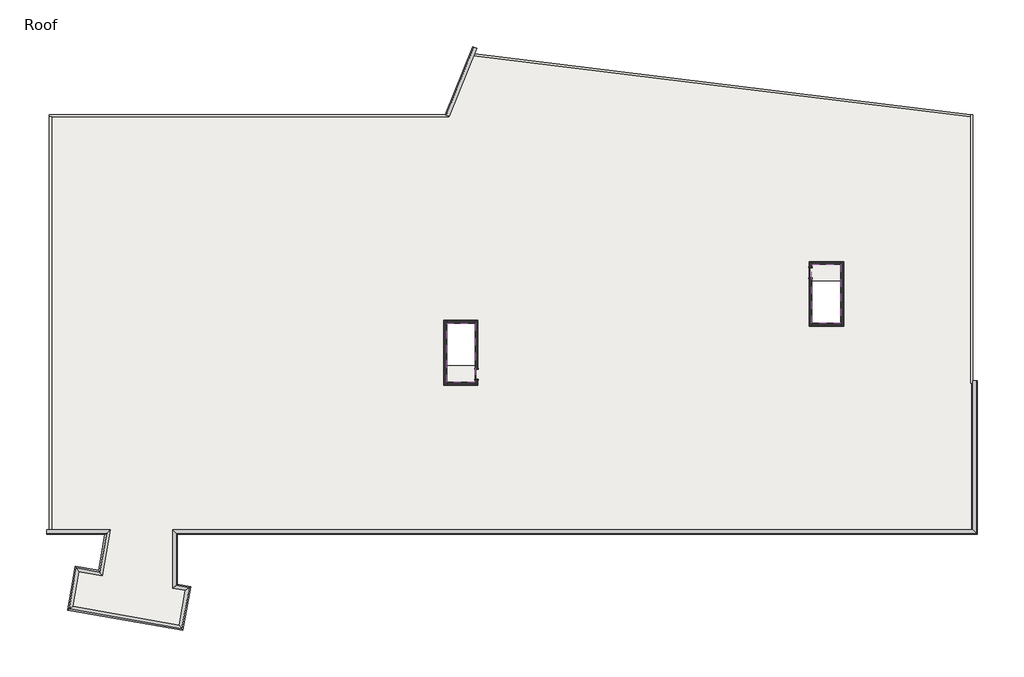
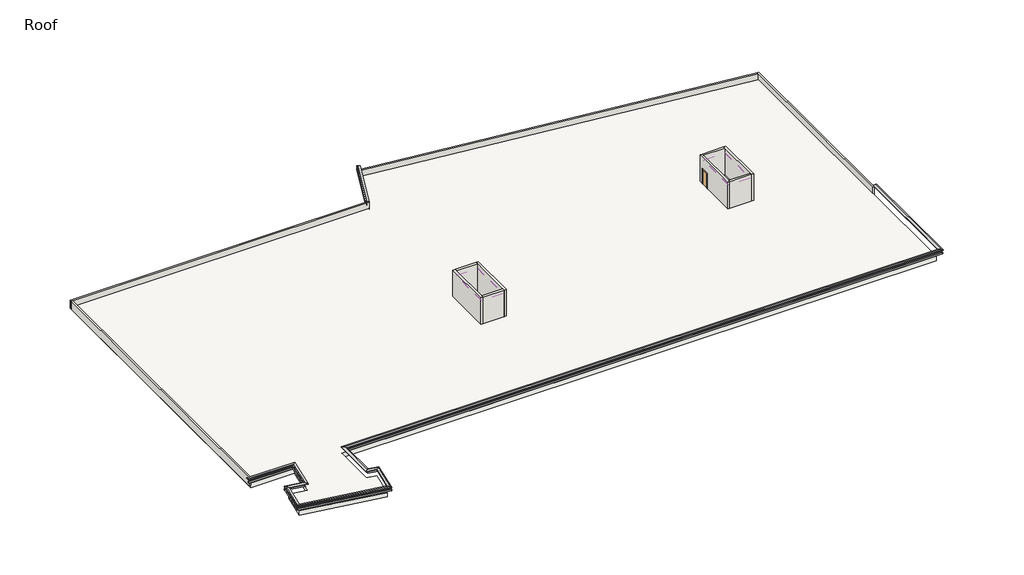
# One storey: 22 proxies, 12 walls, 3 roofs, 2 doors.
"""IFC4 building model written with IfcOpenShell, lengths in millimetres."""

from ifc_helpers import new_model, si_unit, frame, origin, place, context, project, spatial, polyline, outline, extrude, faceted_brep, transform, mapped, element, save
from components import door_ec010f1f

model = new_model("IFC4")

# Units and contexts
model_context = context("Model", 3, world=origin())
ifc_project = project(units=[si_unit("LENGTHUNIT", "METRE", prefix="MILLI")], contexts=[model_context])

# Site, building, storey
site = spatial("IfcSite", under=ifc_project)
building = spatial("IfcBuilding", under=site)
storey = spatial("IfcBuildingStorey", under=building, Name="Roof", Elevation=18288.0)

# Proxies
placement = place(None, origin())
element("IfcBuildingElementProxy", 1, Name="Wall Sweeps", at=placement, inside=storey, context=model_context, shape_type="Brep", body=[
    faceted_brep([(15183.0054088, -28082.2103492, 19100.8), (15183.0054088, -28082.2103492, 18897.6), (15090.9304088, -27990.1353492, 18897.6), (15090.9304088, -27990.1353492, 19100.8), (-57076.0875003, -28082.2103492, 19100.8), (-57168.1625003, -27990.1353492, 19100.8), (-57168.1625003, -27990.1353492, 18897.6), (-57076.0875003, -28082.2103492, 18897.6), (-57076.0875003, -27990.1353492, 18897.6), (-57076.0875003, -27990.1353492, 19100.8)], [[[0, 1, 2, 3]], [[4, 5, 6, 7]], [[1, 0, 4, 7]], [[2, 1, 7, 6, 8]], [[3, 2, 8, 6, 5, 9]], [[0, 3, 9, 5, 4]]]),
])
element("IfcBuildingElementProxy", 2, Name="Wall Sweeps", at=placement, inside=storey, context=model_context, shape_type="Brep", body=[
    faceted_brep([(14802.0054088, -27701.2103492, 19367.5), (15081.4054088, -27980.6103492, 19405.6), (15208.4054088, -28107.6103492, 19367.5), (15208.4054088, -28107.6103492, 19304.0), (14802.0054088, -27701.2103492, 19304.0), (-57457.0875003, -27701.2103492, 19367.5), (-57457.0875003, -27701.2103492, 19304.0), (-57050.6875003, -28107.6103492, 19304.0), (-57050.6875003, -28107.6103492, 19367.5), (-57177.6875003, -27980.6103492, 19405.6)], [[[0, 1, 2, 3, 4]], [[5, 6, 7, 8, 9]], [[1, 0, 5, 9]], [[2, 1, 9, 8]], [[3, 2, 8, 7]], [[4, 3, 7, 6]], [[0, 4, 6, 5]]]),
])
element("IfcBuildingElementProxy", 3, Name="Wall Sweeps", at=placement, inside=storey, context=model_context, shape_type="SweptSolid", body=[
    extrude(outline(polyline([(-63573.0663387, -28082.2103492), (-63463.3356266, -27990.1353492), (-64081.0179385, -31493.1858149), (-64155.7054564, -31386.5209851), (-63573.0663387, -28082.2103492)])), frame((0.0, 0.0, 18897.6), z_axis=(0.0, 0.0, 1.0), x_axis=(1.0, 0.0, 0.0)), (0.0, 0.0, 1.0), 203.2),
])
element("IfcBuildingElementProxy", 4, Name="Wall Sweeps", at=placement, inside=storey, context=model_context, shape_type="Brep", body=[
    faceted_brep([(-63119.0082199, -27701.2103492, 19367.5), (-63119.0082199, -27701.2103492, 19304.0), (-63603.3368799, -28107.6103492, 19304.0), (-63603.3368799, -28107.6103492, 19367.5), (-63451.9841737, -27980.6103492, 19405.6), (-63846.6536582, -31827.8926946, 19367.5), (-64073.2916436, -31504.2201076, 19405.6), (-64176.3089096, -31357.0962044, 19367.5), (-64176.3089096, -31357.0962044, 19304.0), (-63846.6536582, -31827.8926946, 19304.0)], [[[0, 1, 2, 3, 4]], [[5, 6, 7, 8, 9]], [[0, 4, 6, 5]], [[4, 3, 7, 6]], [[3, 2, 8, 7]], [[2, 1, 9, 8]], [[1, 0, 5, 9]]]),
])
element("IfcBuildingElementProxy", 5, Name="Wall Sweeps", at=placement, inside=storey, context=model_context, shape_type="Brep", body=[
    faceted_brep([(-64155.7054564, -31386.5209851, 19100.8), (-64081.0179385, -31493.1858149, 19100.8), (-64081.0179385, -31493.1858149, 18897.6), (-64155.7054564, -31386.5209851, 18897.6), (-66256.8912782, -31016.0252332, 19100.8), (-66256.8912782, -31016.0252332, 18897.6), (-66182.2037603, -31122.690063, 18897.6), (-66182.2037603, -31122.690063, 19100.8), (-64171.6941124, -31477.1971589, 18897.6), (-64171.6941124, -31477.1971589, 19100.8)], [[[0, 1, 2, 3]], [[4, 5, 6, 7]], [[0, 3, 5, 4]], [[3, 2, 8, 6, 5]], [[2, 1, 9, 7, 6, 8]], [[1, 0, 4, 7, 9]]]),
])
element("IfcBuildingElementProxy", 6, Name="Wall Sweeps", at=placement, inside=storey, context=model_context, shape_type="Brep", body=[
    faceted_brep([(-63846.6536582, -31827.8926946, 19367.5), (-63846.6536582, -31827.8926946, 19304.0), (-64176.3089096, -31357.0962044, 19304.0), (-64176.3089096, -31357.0962044, 19367.5), (-64073.2916436, -31504.2201076, 19405.6), (-65947.83948, -31457.3969428, 19367.5), (-66174.4774654, -31133.7243557, 19405.6), (-66277.4947315, -30986.6004526, 19367.5), (-66277.4947315, -30986.6004526, 19304.0), (-65947.83948, -31457.3969428, 19304.0)], [[[0, 1, 2, 3, 4]], [[5, 6, 7, 8, 9]], [[0, 4, 6, 5]], [[4, 3, 7, 6]], [[3, 2, 8, 7]], [[2, 1, 9, 8]], [[1, 0, 5, 9]]]),
])
element("IfcBuildingElementProxy", 7, Name="Wall Sweeps", at=placement, inside=storey, context=model_context, shape_type="Brep", body=[
    faceted_brep([(-66256.8912782, -31016.0252332, 19100.8), (-66182.2037603, -31122.690063, 19100.8), (-66182.2037603, -31122.690063, 18897.6), (-66256.8912782, -31016.0252332, 18897.6), (-66944.9548174, -34918.2274737, 19100.8), (-66944.9548174, -34918.2274737, 18897.6), (-66838.2899876, -34843.5399558, 18897.6), (-66838.2899876, -34843.5399558, 19100.8), (-66318.0892373, -31363.0961055, 18897.6), (-66318.0892373, -31363.0961055, 19100.8), (-66227.4130634, -31379.0847615, 18897.6), (-66227.4130634, -31379.0847615, 19100.8)], [[[0, 1, 2, 3]], [[4, 5, 6, 7]], [[0, 3, 8, 5, 4, 9]], [[3, 2, 10, 6, 5, 8]], [[2, 1, 11, 7, 6, 10]], [[1, 0, 9, 4, 7, 11]]]),
])
element("IfcBuildingElementProxy", 8, Name="Wall Sweeps", at=placement, inside=storey, context=model_context, shape_type="Brep", body=[
    faceted_brep([(-65947.83948, -31457.3969428, 19367.5), (-65947.83948, -31457.3969428, 19304.0), (-66277.4947315, -30986.6004526, 19304.0), (-66277.4947315, -30986.6004526, 19367.5), (-66174.4774654, -31133.7243557, 19405.6), (-66503.5831078, -34609.1756755, 19367.5), (-66827.2556949, -34835.8136609, 19405.6), (-66974.3795981, -34938.8309269, 19367.5), (-66974.3795981, -34938.8309269, 19304.0), (-66503.5831078, -34609.1756755, 19304.0)], [[[0, 1, 2, 3, 4]], [[5, 6, 7, 8, 9]], [[0, 4, 6, 5]], [[4, 3, 7, 6]], [[3, 2, 8, 7]], [[2, 1, 9, 8]], [[1, 0, 5, 9]]]),
])
element("IfcBuildingElementProxy", 9, Name="Wall Sweeps", at=placement, inside=storey, context=model_context, shape_type="Brep", body=[
    faceted_brep([(-66944.9548174, -34918.2274737, 19100.8), (-66838.2899876, -34843.5399558, 19100.8), (-66838.2899876, -34843.5399558, 18897.6), (-66944.9548174, -34918.2274737, 18897.6), (-56579.730116, -36745.8962497, 19100.8), (-56579.730116, -36745.8962497, 18897.6), (-56654.4176339, -36639.2314199, 18897.6), (-56654.4176339, -36639.2314199, 19100.8), (-66597.8839451, -34979.4254327, 18897.6), (-66597.8839451, -34979.4254327, 19100.8), (-66581.8952891, -34888.7492589, 18897.6), (-66581.8952891, -34888.7492589, 19100.8)], [[[0, 1, 2, 3]], [[4, 5, 6, 7]], [[0, 3, 8, 5, 4, 9]], [[3, 2, 10, 6, 5, 8]], [[2, 1, 11, 7, 6, 10]], [[1, 0, 9, 4, 7, 11]]]),
])
element("IfcBuildingElementProxy", 10, Name="Wall Sweeps", at=placement, inside=storey, context=model_context, shape_type="Brep", body=[
    faceted_brep([(-66503.5831078, -34609.1756755, 19367.5), (-66503.5831078, -34609.1756755, 19304.0), (-66974.3795981, -34938.8309269, 19304.0), (-66974.3795981, -34938.8309269, 19367.5), (-66827.2556949, -34835.8136609, 19405.6), (-56888.7819142, -36304.5245401, 19367.5), (-56662.1439289, -36628.1971271, 19405.6), (-56559.1266628, -36775.3210303, 19367.5), (-56559.1266628, -36775.3210303, 19304.0), (-56888.7819142, -36304.5245401, 19304.0)], [[[0, 1, 2, 3, 4]], [[5, 6, 7, 8, 9]], [[0, 4, 6, 5]], [[4, 3, 7, 6]], [[3, 2, 8, 7]], [[2, 1, 9, 8]], [[1, 0, 5, 9]]]),
])
element("IfcBuildingElementProxy", 11, Name="Wall Sweeps", at=placement, inside=storey, context=model_context, shape_type="Brep", body=[
    faceted_brep([(-56579.730116, -36745.8962497, 19100.8), (-56654.4176339, -36639.2314199, 19100.8), (-56654.4176339, -36639.2314199, 18897.6), (-56579.730116, -36745.8962497, 18897.6), (-55891.6665768, -32843.6940092, 19100.8), (-55891.6665768, -32843.6940092, 18897.6), (-55998.3314066, -32918.3815271, 18897.6), (-55998.3314066, -32918.3815271, 19100.8), (-56518.532157, -36398.8253773, 18897.6), (-56518.532157, -36398.8253773, 19100.8), (-56609.2083309, -36382.8367214, 18897.6), (-56609.2083309, -36382.8367214, 19100.8)], [[[0, 1, 2, 3]], [[4, 5, 6, 7]], [[0, 3, 8, 5, 4, 9]], [[3, 2, 10, 6, 5, 8]], [[2, 1, 11, 7, 6, 10]], [[1, 0, 9, 4, 7, 11]]]),
])
element("IfcBuildingElementProxy", 12, Name="Wall Sweeps", at=placement, inside=storey, context=model_context, shape_type="Brep", body=[
    faceted_brep([(-56888.7819142, -36304.5245401, 19367.5), (-56888.7819142, -36304.5245401, 19304.0), (-56559.1266628, -36775.3210303, 19304.0), (-56559.1266628, -36775.3210303, 19367.5), (-56662.1439289, -36628.1971271, 19405.6), (-56333.0382864, -33152.7458074, 19367.5), (-56009.3656994, -32926.107822, 19405.6), (-55862.2417962, -32823.0905559, 19367.5), (-55862.2417962, -32823.0905559, 19304.0), (-56333.0382864, -33152.7458074, 19304.0)], [[[0, 1, 2, 3, 4]], [[5, 6, 7, 8, 9]], [[0, 4, 6, 5]], [[4, 3, 7, 6]], [[3, 2, 8, 7]], [[2, 1, 9, 8]], [[1, 0, 5, 9]]]),
])
element("IfcBuildingElementProxy", 13, Name="Wall Sweeps", at=placement, inside=storey, context=model_context, shape_type="Brep", body=[
    faceted_brep([(-55891.6665768, -32843.6940092, 19100.8), (-55998.3314066, -32918.3815271, 19100.8), (-55998.3314066, -32918.3815271, 18897.6), (-55891.6665768, -32843.6940092, 18897.6), (-57076.0875003, -32634.8486438, 19100.8), (-57076.0875003, -32634.8486438, 18897.6), (-57168.1625003, -32712.1087424, 18897.6), (-57168.1625003, -32712.1087424, 19100.8), (-56238.7374492, -32782.4960501, 18897.6), (-56238.7374492, -32782.4960501, 19100.8), (-56254.7261051, -32873.172224, 18897.6), (-56254.7261051, -32873.172224, 19100.8)], [[[0, 1, 2, 3]], [[4, 5, 6, 7]], [[0, 3, 8, 5, 4, 9]], [[3, 2, 10, 6, 5, 8]], [[2, 1, 11, 7, 6, 10]], [[1, 0, 9, 4, 7, 11]]]),
])
element("IfcBuildingElementProxy", 14, Name="Wall Sweeps", at=placement, inside=storey, context=model_context, shape_type="Brep", body=[
    faceted_brep([(-56333.0382864, -33152.7458074, 19367.5), (-56333.0382864, -33152.7458074, 19304.0), (-55862.2417962, -32823.0905559, 19304.0), (-55862.2417962, -32823.0905559, 19367.5), (-56009.3656994, -32926.107822, 19405.6), (-57457.0875003, -32954.5456033, 19367.5), (-57177.6875003, -32720.1011664, 19405.6), (-57050.6875003, -32613.5355132, 19367.5), (-57050.6875003, -32613.5355132, 19304.0), (-57457.0875003, -32954.5456033, 19304.0)], [[[0, 1, 2, 3, 4]], [[5, 6, 7, 8, 9]], [[0, 4, 6, 5]], [[4, 3, 7, 6]], [[3, 2, 8, 7]], [[2, 1, 9, 8]], [[1, 0, 5, 9]]]),
])
element("IfcBuildingElementProxy", 15, Name="Wall Sweeps", at=placement, inside=storey, context=model_context, shape_type="Brep", body=[
    faceted_brep([(-57076.0875003, -32634.8486438, 19100.8), (-57168.1625003, -32712.1087424, 19100.8), (-57168.1625003, -32712.1087424, 18897.6), (-57076.0875003, -32634.8486438, 18897.6), (-57076.0875003, -28082.2103492, 19100.8), (-57076.0875003, -28082.2103492, 18897.6), (-57168.1625003, -27990.1353492, 18897.6), (-57168.1625003, -27990.1353492, 19100.8), (-57168.1625003, -32618.6133371, 18897.6), (-57168.1625003, -32618.6133371, 19100.8)], [[[0, 1, 2, 3]], [[4, 5, 6, 7]], [[0, 3, 5, 4]], [[3, 2, 8, 6, 5]], [[2, 1, 9, 7, 6, 8]], [[1, 0, 4, 7, 9]]]),
])
element("IfcBuildingElementProxy", 16, Name="Wall Sweeps", at=placement, inside=storey, context=model_context, shape_type="Brep", body=[
    faceted_brep([(-57457.0875003, -32954.5456033, 19367.5), (-57457.0875003, -32954.5456033, 19304.0), (-57050.6875003, -32613.5355132, 19304.0), (-57050.6875003, -32613.5355132, 19367.5), (-57177.6875003, -32720.1011664, 19405.6), (-57457.0875003, -27701.2103492, 19367.5), (-57177.6875003, -27980.6103492, 19405.6), (-57050.6875003, -28107.6103492, 19367.5), (-57050.6875003, -28107.6103492, 19304.0), (-57457.0875003, -27701.2103492, 19304.0)], [[[0, 1, 2, 3, 4]], [[5, 6, 7, 8, 9]], [[0, 4, 6, 5]], [[4, 3, 7, 6]], [[3, 2, 8, 7]], [[2, 1, 9, 8]], [[1, 0, 5, 9]]]),
])
element("IfcBuildingElementProxy", 17, Name="Wall Sweeps", at=placement, inside=storey, context=model_context, shape_type="Brep", body=[
    faceted_brep([(-63573.0663387, -28082.2103492, 19100.8), (-63573.0663387, -28082.2103492, 18897.6), (-63463.3356266, -27990.1353492, 18897.6), (-63463.3356266, -27990.1353492, 19100.8), (-68878.5489105, -28082.2103492, 19100.8), (-68878.5489105, -27990.1353492, 19100.8), (-68878.5489105, -27990.1353492, 18897.6), (-68878.5489105, -28082.2103492, 18897.6), (-63556.8310319, -27990.1353492, 18897.6), (-63556.8310319, -27990.1353492, 19100.8)], [[[0, 1, 2, 3]], [[4, 5, 6, 7]], [[1, 0, 4, 7]], [[2, 1, 7, 6, 8]], [[3, 2, 8, 6, 5, 9]], [[0, 3, 9, 5, 4]]]),
])
element("IfcBuildingElementProxy", 18, Name="Wall Sweeps", at=placement, inside=storey, context=model_context, shape_type="Brep", body=[
    faceted_brep([(-63119.0082199, -27701.2103492, 19367.5), (-63451.9841737, -27980.6103492, 19405.6), (-63603.3368799, -28107.6103492, 19367.5), (-63603.3368799, -28107.6103492, 19304.0), (-63119.0082199, -27701.2103492, 19304.0), (-68878.5489105, -27701.2103492, 19367.5), (-68878.5489105, -27701.2103492, 19304.0), (-68878.5489105, -27729.7853492, 19304.0), (-68878.5489105, -28082.2103492, 19304.0), (-68878.5489105, -28107.6103492, 19304.0), (-68878.5489105, -28107.6103492, 19367.5), (-68878.5489105, -27980.6103492, 19405.6)], [[[0, 1, 2, 3, 4]], [[5, 6, 7, 8, 9, 10, 11]], [[1, 0, 5, 11]], [[2, 1, 11, 10]], [[3, 2, 10, 9]], [[4, 3, 9, 8, 7, 6]], [[0, 4, 6, 5]]]),
])
element("IfcBuildingElementProxy", 19, Name="Wall Sweeps", at=placement, inside=storey, context=model_context, shape_type="Brep", body=[
    faceted_brep([(-32848.1803429, 9805.0646508, 19100.8), (-32848.1803429, 9805.0646508, 18897.6), (-32762.8098895, 9770.5727487, 18897.6), (-32762.8098895, 9770.5727487, 19100.8), (-30364.4519809, 15952.5080671, 19100.8), (-30279.0815275, 15918.016165, 19100.8), (-30279.0815275, 15918.016165, 18897.6), (-30364.4519809, 15952.5080671, 18897.6), (-32748.8742565, 9805.0646508, 18897.6), (-32748.8742565, 9805.0646508, 19100.8)], [[[0, 1, 2, 3]], [[4, 5, 6, 7]], [[1, 0, 4, 7]], [[2, 1, 7, 6, 8]], [[3, 2, 8, 6, 5, 9]], [[0, 3, 9, 5, 4]]]),
])
element("IfcBuildingElementProxy", 20, Name="Wall Sweeps", at=placement, inside=storey, context=model_context, shape_type="Brep", body=[
    faceted_brep([(-32494.9232944, 9662.3395387, 19367.5), (-32753.9784633, 9767.0046209, 19405.6), (-32871.7308129, 9814.5796583, 19367.5), (-32871.7308129, 9814.5796583, 19304.0), (-32494.9232944, 9662.3395387, 19304.0), (-30011.1949323, 15809.782955, 19367.5), (-30011.1949323, 15809.782955, 19304.0), (-30037.689211, 15820.4873384, 19304.0), (-30364.4519809, 15952.5080671, 19304.0), (-30388.0024508, 15962.0230746, 19304.0), (-30388.0024508, 15962.0230746, 19367.5), (-30270.2501013, 15914.4480372, 19405.6)], [[[0, 1, 2, 3, 4]], [[5, 6, 7, 8, 9, 10, 11]], [[1, 0, 5, 11]], [[2, 1, 11, 10]], [[3, 2, 10, 9]], [[4, 3, 9, 8, 7, 6]], [[0, 4, 6, 5]]]),
])
element("IfcBuildingElementProxy", 21, Name="Wall Sweeps", at=placement, inside=storey, context=model_context, shape_type="Brep", body=[
    faceted_brep([(15183.0054088, -14218.5728492, 19100.8), (15183.0054088, -14218.5728492, 18897.6), (15090.9304088, -14218.5728492, 18897.6), (15090.9304088, -14218.5728492, 19100.8), (15183.0054088, -28082.2103492, 19100.8), (15090.9304088, -27990.1353492, 19100.8), (15090.9304088, -27990.1353492, 18897.6), (15183.0054088, -28082.2103492, 18897.6), (15183.0054088, -27729.7853492, 19100.8), (15183.0054088, -27729.7853492, 18897.6), (15090.9304088, -27729.7853492, 18897.6), (15090.9304088, -27729.7853492, 19100.8)], [[[0, 1, 2, 3]], [[4, 5, 6, 7]], [[1, 0, 8, 4, 7, 9]], [[2, 1, 9, 7, 6, 10]], [[3, 2, 10, 6, 5, 11]], [[0, 3, 11, 5, 4, 8]]]),
])
element("IfcBuildingElementProxy", 22, Name="Wall Sweeps", at=placement, inside=storey, context=model_context, shape_type="Brep", body=[
    faceted_brep([(14802.0054088, -14218.5728492, 19367.5), (15081.4054088, -14218.5728492, 19405.6), (15208.4054088, -14218.5728492, 19367.5), (15208.4054088, -14218.5728492, 19304.0), (15183.0054088, -14218.5728492, 19304.0), (14830.5804088, -14218.5728492, 19304.0), (14802.0054088, -14218.5728492, 19304.0), (14802.0054088, -27701.2103492, 19367.5), (14802.0054088, -27701.2103492, 19304.0), (15208.4054088, -28107.6103492, 19304.0), (15208.4054088, -28107.6103492, 19367.5), (15081.4054088, -27980.6103492, 19405.6)], [[[0, 1, 2, 3, 4, 5, 6]], [[7, 8, 9, 10, 11]], [[1, 0, 7, 11]], [[2, 1, 11, 10]], [[3, 2, 10, 9]], [[6, 5, 4, 3, 9, 8]], [[0, 6, 8, 7]]]),
])

# Doors
door_shape = door_ec010f1f(model_context)
element("IfcDoor", 23, ObjectType="Single-Flush : 36\" x 84\"", at=placement, inside=storey, context=model_context, shape_type="MappedRepresentation", body=[
    mapped(door_shape, transform((-30039.6713641, -13629.6103492, 18288.0), x_axis=(0.0, 1.0, 0.0), y_axis=(-1.0, 0.0, 0.0), z_axis=(0.0, 0.0, 1.0))),
])
element("IfcDoor", 24, ObjectType="Single-Flush : 36\" x 84\"", at=placement, inside=storey, context=model_context, shape_type="MappedRepresentation", body=[
    mapped(door_shape, transform((131.9000645, -4460.2103492, 18288.0), x_axis=(0.0, 1.0, 0.0), y_axis=(-1.0, 0.0, 0.0), z_axis=(0.0, 0.0, 1.0))),
])

# Roofs
element("IfcRoof", 25, ObjectType="Steel Truss - Insulation on Metal Deck - EPDM", at=placement, inside=storey, context=model_context, shape_type="SweptSolid", body=[
    extrude(outline(polyline([(-63153.0625788, -27729.7853492), (-68426.1114105, -27729.7853492), (-68426.1114105, 9611.3896508), (-32546.3275155, 9611.3896508), (-30314.3106087, 15135.8253535), (14587.6929088, 9622.552568), (14587.6929088, -14390.0228492), (14627.3804088, -14390.0228492), (14627.3804088, -27729.7853492), (-57428.5125003, -27729.7853492), (-57428.5125003, -32930.5683313), (-56299.9354082, -33129.5669225), (-56865.6030293, -36337.6274183), (-66536.6859861, -34632.3545604), (-65971.0183649, -31424.2940646), (-63869.8325431, -31794.7898164), (-63153.0625788, -27729.7853492)]), holes=[polyline([(-32750.2142212, -9032.2103492), (-32750.2142212, -12842.2103492), (-30166.6713641, -12842.2103492), (-30166.6713641, -9032.2103492), (-32750.2142212, -9032.2103492)]), polyline([(2867.8429217, -9032.2103492), (2867.8429217, -5222.2103492), (284.3000645, -5222.2103492), (284.3000645, -9032.2103492), (2867.8429217, -9032.2103492)])]), frame((0.0, 0.0, 17983.2), z_axis=(0.0, 0.0, 1.0), x_axis=(1.0, 0.0, 0.0)), (0.0, 0.0, 1.0), 546.1),
])
element("IfcRoof", 26, ObjectType="Steel Truss - Insulation on Metal Deck - EPDM", at=placement, inside=storey, context=model_context, shape_type="SweptSolid", body=[
    extrude(outline(polyline([(-30166.6713641, -9032.2103492), (-30166.6713641, -14366.2103492), (-32750.2142212, -14366.2103492), (-32750.2142212, -9032.2103492), (-30166.6713641, -9032.2103492)])), frame((0.0, 0.0, 21336.0), z_axis=(0.0, 0.0, 1.0), x_axis=(1.0, 0.0, 0.0)), (0.0, 0.0, 1.0), 546.1),
])
element("IfcRoof", 27, ObjectType="Steel Truss - Insulation on Metal Deck - EPDM", at=placement, inside=storey, context=model_context, shape_type="SweptSolid", body=[
    extrude(outline(polyline([(258.9000645, -9032.2103492), (258.9000645, -3723.6103492), (2867.8429217, -3723.6103492), (2867.8429217, -9032.2103492), (258.9000645, -9032.2103492)])), frame((0.0, 0.0, 21336.0), z_axis=(0.0, 0.0, 1.0), x_axis=(1.0, 0.0, 0.0)), (0.0, 0.0, 1.0), 546.1),
])

# Walls
element("IfcWall", 28, ObjectType="Core-shaft 10\" Concrete", at=placement, inside=storey, context=model_context, shape_type="Brep", body=[
    faceted_brep([(-32750.2142212, -14620.2103492, 18288.0), (-32750.2142212, -14366.2103492, 18288.0), (-32750.2142212, -9032.2103492, 18288.0), (-32750.2142212, -8778.2103492, 18288.0), (-32750.2142212, -8778.2103492, 21945.6), (-32750.2142212, -9032.2103492, 21945.6), (-32750.2142212, -14366.2103492, 21945.6), (-32750.2142212, -14620.2103492, 21945.6), (-33004.2142212, -14620.2103492, 18288.0), (-33004.2142212, -14620.2103492, 21945.6), (-33004.2142212, -8778.2103492, 21945.6), (-33004.2142212, -8778.2103492, 18288.0)], [[[0, 1, 2, 3, 4, 5, 6, 7]], [[8, 9, 10, 11]], [[3, 2, 1, 0, 8, 11]], [[7, 6, 5, 4, 10, 9]], [[4, 3, 11, 10]], [[0, 7, 9, 8]]]),
])
element("IfcWall", 29, ObjectType="Core-shaft 10\" Concrete", at=placement, inside=storey, context=model_context, shape_type="Brep", body=[
    faceted_brep([(-29912.6713641, -13172.4103492, 20421.6), (-29912.6713641, -13172.4103492, 18288.0), (-29912.6713641, -8778.2103492, 18288.0), (-29912.6713641, -8778.2103492, 21945.6), (-29912.6713641, -14620.2103492, 21945.6), (-29912.6713641, -14620.2103492, 18288.0), (-29912.6713641, -14086.8103492, 18288.0), (-29912.6713641, -14086.8103492, 20421.6), (-30166.6713641, -8778.2103492, 18288.0), (-30166.6713641, -9032.2103492, 18288.0), (-30166.6713641, -13172.4103492, 18288.0), (-30166.6713641, -13172.4103492, 20421.6), (-30166.6713641, -14086.8103492, 20421.6), (-30166.6713641, -14086.8103492, 18288.0), (-30166.6713641, -14366.2103492, 18288.0), (-30166.6713641, -14620.2103492, 18288.0), (-30166.6713641, -14620.2103492, 21945.6), (-30166.6713641, -14366.2103492, 21945.6), (-30166.6713641, -9032.2103492, 21945.6), (-30166.6713641, -8778.2103492, 21945.6)], [[[0, 1, 2, 3, 4, 5, 6, 7]], [[8, 9, 10, 11, 12, 13, 14, 15, 16, 17, 18, 19]], [[6, 5, 15, 14, 13]], [[2, 1, 10, 9, 8]], [[4, 3, 19, 18, 17, 16]], [[3, 2, 8, 19]], [[11, 10, 1, 0]], [[12, 11, 0, 7]], [[13, 12, 7, 6]], [[5, 4, 16, 15]]]),
])
element("IfcWall", 30, ObjectType="Core-shaft 10\" Concrete", at=placement, inside=storey, context=model_context, shape_type="SweptSolid", body=[
    extrude(outline(polyline([(-32750.2142212, -8778.2103492), (-30166.6713641, -8778.2103492), (-30166.6713641, -9032.2103492), (-32750.2142212, -9032.2103492), (-32750.2142212, -8778.2103492)])), frame((0.0, 0.0, 18288.0), z_axis=(0.0, 0.0, 1.0), x_axis=(1.0, 0.0, 0.0)), (0.0, 0.0, 1.0), 3657.6),
])
element("IfcWall", 31, ObjectType="Core-shaft 10\" Concrete", at=placement, inside=storey, context=model_context, shape_type="SweptSolid", body=[
    extrude(outline(polyline([(-32750.2142212, -14366.2103492), (-30166.6713641, -14366.2103492), (-30166.6713641, -14620.2103492), (-32750.2142212, -14620.2103492), (-32750.2142212, -14366.2103492)])), frame((0.0, 0.0, 18288.0), z_axis=(0.0, 0.0, 1.0), x_axis=(1.0, 0.0, 0.0)), (0.0, 0.0, 1.0), 3657.6),
])
element("IfcWall", 32, ObjectType="Core-shaft 10\" Concrete", at=placement, inside=storey, context=model_context, shape_type="Brep", body=[
    faceted_brep([(3121.8429217, -9286.2103492, 18288.0), (3121.8429217, -3469.6103492, 18288.0), (3121.8429217, -3469.6103492, 21945.6), (3121.8429217, -9286.2103492, 21945.6), (2867.8429217, -9286.2103492, 18288.0), (2867.8429217, -9286.2103492, 21945.6), (2867.8429217, -9032.2103492, 21945.6), (2867.8429217, -3723.6103492, 21945.6), (2867.8429217, -3469.6103492, 21945.6), (2867.8429217, -3469.6103492, 18288.0), (2867.8429217, -3723.6103492, 18288.0), (2867.8429217, -9032.2103492, 18288.0)], [[[0, 1, 2, 3]], [[4, 5, 6, 7, 8, 9, 10, 11]], [[1, 0, 4, 11, 10, 9]], [[3, 2, 8, 7, 6, 5]], [[2, 1, 9, 8]], [[0, 3, 5, 4]]]),
])
element("IfcWall", 33, ObjectType="Core-shaft 10\" Concrete", at=placement, inside=storey, context=model_context, shape_type="Brep", body=[
    faceted_brep([(258.9000645, -4003.0103492, 20421.6), (258.9000645, -4003.0103492, 18288.0), (258.9000645, -3723.6103492, 18288.0), (258.9000645, -3469.6103492, 18288.0), (258.9000645, -3469.6103492, 21945.6), (258.9000645, -3723.6103492, 21945.6), (258.9000645, -9032.2103492, 21945.6), (258.9000645, -9286.2103492, 21945.6), (258.9000645, -9286.2103492, 18288.0), (258.9000645, -9032.2103492, 18288.0), (258.9000645, -4917.4103492, 18288.0), (258.9000645, -4917.4103492, 20421.6), (4.9000645, -3469.6103492, 18288.0), (4.9000645, -4003.0103492, 18288.0), (4.9000645, -4003.0103492, 20421.6), (4.9000645, -4917.4103492, 20421.6), (4.9000645, -4917.4103492, 18288.0), (4.9000645, -9286.2103492, 18288.0), (4.9000645, -9286.2103492, 21945.6), (4.9000645, -3469.6103492, 21945.6)], [[[0, 1, 2, 3, 4, 5, 6, 7, 8, 9, 10, 11]], [[12, 13, 14, 15, 16, 17, 18, 19]], [[10, 9, 8, 17, 16]], [[3, 2, 1, 13, 12]], [[7, 6, 5, 4, 19, 18]], [[4, 3, 12, 19]], [[14, 13, 1, 0]], [[15, 14, 0, 11]], [[16, 15, 11, 10]], [[8, 7, 18, 17]]]),
])
element("IfcWall", 34, ObjectType="Core-shaft 10\" Concrete", at=placement, inside=storey, context=model_context, shape_type="SweptSolid", body=[
    extrude(outline(polyline([(2867.8429217, -3723.6103492), (258.9000645, -3723.6103492), (258.9000645, -3469.6103492), (2867.8429217, -3469.6103492), (2867.8429217, -3723.6103492)])), frame((0.0, 0.0, 18288.0), z_axis=(0.0, 0.0, 1.0), x_axis=(1.0, 0.0, 0.0)), (0.0, 0.0, 1.0), 3657.6),
])
element("IfcWall", 35, ObjectType="Core-shaft 10\" Concrete", at=placement, inside=storey, context=model_context, shape_type="SweptSolid", body=[
    extrude(outline(polyline([(2867.8429217, -9286.2103492), (258.9000645, -9286.2103492), (258.9000645, -9032.2103492), (2867.8429217, -9032.2103492), (2867.8429217, -9286.2103492)])), frame((0.0, 0.0, 18288.0), z_axis=(0.0, 0.0, 1.0), x_axis=(1.0, 0.0, 0.0)), (0.0, 0.0, 1.0), 3657.6),
])
element("IfcWall", 36, ObjectType="Generic - 8\" Masonry", at=placement, inside=storey, context=model_context, shape_type="Brep", body=[
    faceted_brep([(14781.3679088, -14447.1728492, 18262.6), (14781.3679088, 9793.9017336, 18262.6), (14781.3679088, 9793.9017336, 19304.0), (14781.3679088, -14447.1728492, 19304.0), (14587.6929088, -14447.1728492, 18262.6), (14587.6929088, -14447.1728492, 19304.0), (14587.6929088, 9622.552568, 19304.0), (14587.6929088, 9817.6820334, 19304.0), (14587.6929088, 9817.6820334, 18262.6), (14587.6929088, 9622.552568, 18262.6)], [[[0, 1, 2, 3]], [[4, 5, 6, 7, 8, 9]], [[1, 0, 4, 9, 8]], [[3, 2, 7, 6, 5]], [[0, 3, 5, 4]], [[2, 1, 8, 7]]]),
])
element("IfcWall", 37, ObjectType="Generic - 8\" Masonry", at=placement, inside=storey, context=model_context, shape_type="Brep", body=[
    faceted_brep([(-32468.0777363, 9805.0646508, 18262.6), (-68619.7864105, 9805.0646508, 18262.6), (-68619.7864105, 9805.0646508, 19304.0), (-32848.1803429, 9805.0646508, 19304.0), (-32468.0777363, 9805.0646508, 19304.0), (-32848.1803429, 9805.0646508, 19100.8), (-32848.1803429, 9805.0646508, 18897.6), (-32748.8742565, 9805.0646508, 18897.6), (-32748.8742565, 9805.0646508, 19100.8), (-68619.7864105, 9611.3896508, 18262.6), (-68426.1114105, 9611.3896508, 18262.6), (-32546.3275155, 9611.3896508, 18262.6), (-32546.3275155, 9611.3896508, 19304.0), (-68426.1114105, 9611.3896508, 19304.0), (-68619.7864105, 9611.3896508, 19304.0), (-32762.8098895, 9770.5727487, 18897.6), (-32762.8098895, 9770.5727487, 19100.8)], [[[0, 1, 2, 3, 4], [5, 6, 7, 8]], [[9, 10, 11, 12, 13, 14]], [[1, 0, 11, 10, 9]], [[4, 3, 2, 14, 13, 12]], [[2, 1, 9, 14]], [[0, 4, 12, 11]], [[15, 6, 5, 16]], [[6, 15, 7]], [[15, 16, 8, 7]], [[16, 5, 8]]]),
])
element("IfcWall", 38, ObjectType="Generic - 8\" Masonry", at=placement, inside=storey, context=model_context, shape_type="SweptSolid", body=[
    extrude(outline(polyline([(-68619.7864105, -27729.7853492), (-68619.7864105, 9611.3896508), (-68426.1114105, 9611.3896508), (-68426.1114105, -27729.7853492), (-68619.7864105, -27729.7853492)])), frame((0.0, 0.0, 18262.6), z_axis=(0.0, 0.0, 1.0), x_axis=(1.0, 0.0, 0.0)), (0.0, 0.0, 1.0), 1041.4),
])
element("IfcWall", 39, ObjectType="Generic - 8\" Masonry", at=placement, inside=storey, context=model_context, shape_type="SweptSolid", body=[
    extrude(outline(polyline([(-30239.1993217, 15321.7323126), (14587.6929088, 9817.6820334), (14587.6929088, 9622.552568), (-30314.3106087, 15135.8253535), (-30239.1993217, 15321.7323126)])), frame((0.0, 0.0, 18262.6), z_axis=(0.0, 0.0, 1.0), x_axis=(1.0, 0.0, 0.0)), (0.0, 0.0, 1.0), 1041.4),
])

save(model, "model.ifc")
